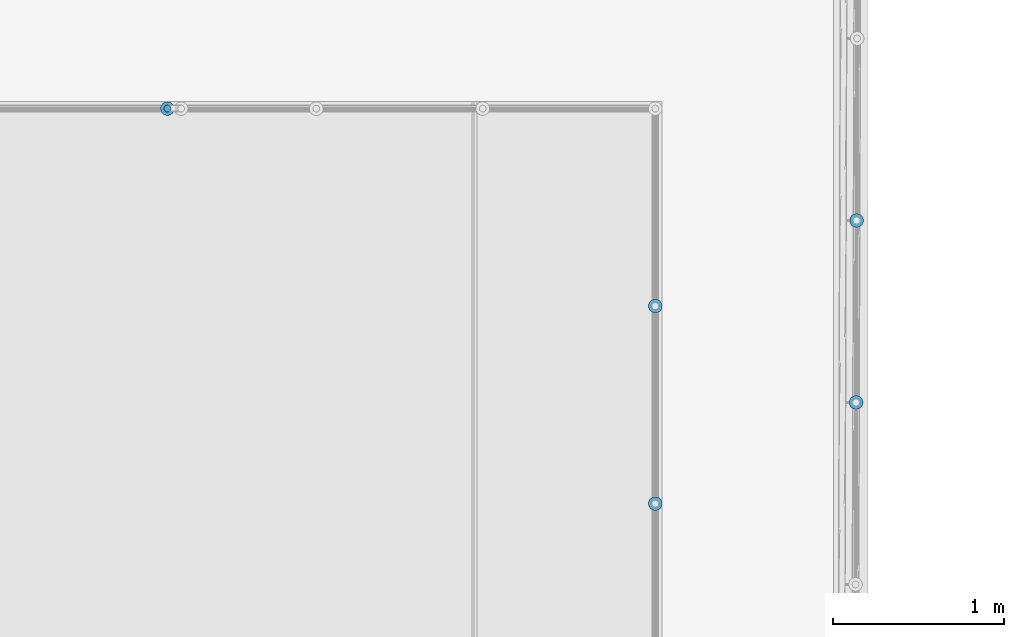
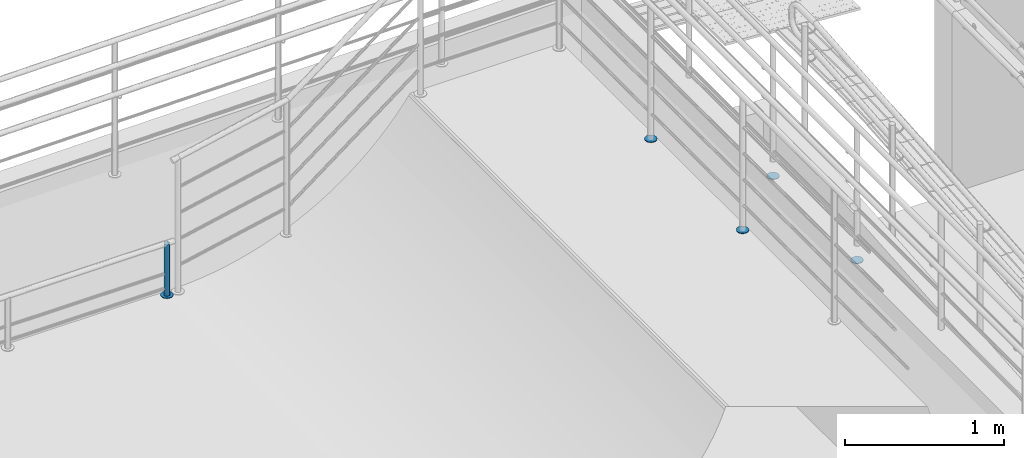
# One storey, part 116 of 237: 6 building element parts, 3 elements without a shape of their own.
"""IFC2X3 building model written with IfcOpenShell, lengths in millimetres."""

from ifc_helpers import new_model, entity, si_unit, converted_unit, derived_unit, money_unit, direction, frame, origin_with_axes, place, context, subcontext, project, spatial, faceted_brep, material, type_object, element, aggregate, save


model = new_model("IFC2X3")

# Units and contexts
model_context = context("Model", 3, precision=0.01, world=origin_with_axes(), true_north=direction((0.0, 1.0)))
body_context = subcontext(model_context, "Body", "Model", "MODEL_VIEW")
ifc_project = project(units=[si_unit("LENGTHUNIT", "METRE", prefix="MILLI"), si_unit("AREAUNIT", "SQUARE_METRE"), si_unit("VOLUMEUNIT", "CUBIC_METRE"), converted_unit("PLANEANGLEUNIT", "DEGREE", entity("IfcPlaneAngleMeasure", 0.0174532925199), si_unit("PLANEANGLEUNIT", "RADIAN"), dimensions=[0, 0, 0, 0, 0, 0, 0]), money_unit("USD"), converted_unit("TIMEUNIT", "Year", entity("IfcTimeMeasure", 31556926.0), si_unit("TIMEUNIT", "SECOND"), dimensions=[0, 0, 1, 0, 0, 0, 0]), si_unit("MASSUNIT", "GRAM", prefix="KILO"), si_unit("THERMODYNAMICTEMPERATUREUNIT", "DEGREE_CELSIUS"), si_unit("LUMINOUSINTENSITYUNIT", "LUMEN"), si_unit("ENERGYUNIT", "JOULE", prefix="MEGA"), derived_unit("THERMALCONDUCTANCEUNIT", [(si_unit("POWERUNIT", "WATT"), 1), (si_unit("LENGTHUNIT", "METRE"), -1), (si_unit("THERMODYNAMICTEMPERATUREUNIT", "KELVIN"), -1)]), derived_unit("SPECIFICHEATCAPACITYUNIT", [(si_unit("ENERGYUNIT", "JOULE"), 1), (si_unit("MASSUNIT", "GRAM", prefix="KILO"), -1), (si_unit("THERMODYNAMICTEMPERATUREUNIT", "KELVIN"), -1)]), derived_unit("MASSDENSITYUNIT", [(si_unit("MASSUNIT", "GRAM", prefix="KILO"), 1), (si_unit("VOLUMEUNIT", "CUBIC_METRE"), -1)])], contexts=[model_context])

# Site, building, storey
site_placement = place(None, origin_with_axes())
site = spatial("IfcSite", under=ifc_project, at=site_placement, Name="Local", CompositionType="ELEMENT")
building_placement = place(site_placement, origin_with_axes())
building = spatial("IfcBuilding", under=site, at=building_placement, Name="Construção", CompositionType="ELEMENT")
storey_placement = place(building_placement, origin_with_axes())
storey = spatial("IfcBuildingStorey", under=building, at=storey_placement, Name="Pavimento Térreo", CompositionType="ELEMENT", Elevation=0.0)

# Railing, building element parts
railing_type = type_object("IfcRailingType", Name="Tipo de Guarda-Corpo", PredefinedType="NOTDEFINED")
railing_1_placement = place(storey_placement, frame((70326.6870103, 28675.2458388, -1357.10819655), z_axis=(0.0, 0.0, 1.0), x_axis=(1.0, 0.0, 0.0)))
railing_1 = element("IfcRailing", 1, at=railing_1_placement, inside=storey, type_object=railing_type, Name="Guarda-Corpo - 004", PredefinedType="NOTDEFINED")
ifc_material_1 = material(Name="Alumínio")
building_element_part_1_placement = place(railing_1_placement, origin_with_axes())
building_element_part_1 = element("IfcBuildingElementPart", 2, at=building_element_part_1_placement, material=ifc_material_1, Name="Alumínio", context=body_context, shape_type="Brep", body=[
    faceted_brep([(-4731.3077517, 3502.74446679, 0.0), (-4738.25546721, 3502.15757709, 0.0), (-4738.25546721, 3502.15757709, 5.0), (-4731.3077517, 3502.74446679, 5.0), (-4724.36367527, 3502.11598217, 0.0), (-4717.63423017, 3500.29121943, 0.0), (-4711.32388719, 3497.32562306, 0.0), (-4705.62438291, 3493.3093012, 0.0), (-4700.70889387, 3488.36428776, 0.0), (-4696.72677473, 3482.64083448, 0.0), (-4693.79902016, 3476.31284558, 0.0), (-4692.0145885, 3469.5725938, 0.0), (-4691.42769881, 3462.62487829, 0.0), (-4692.05618342, 3455.68080186, 0.0), (-4693.88094616, 3448.95135676, 0.0), (-4696.84654254, 3442.64101378, 0.0), (-4700.86286439, 3436.9415095, 0.0), (-4705.80787783, 3432.02602046, 0.0), (-4711.53133112, 3428.04390132, 0.0), (-4717.85932002, 3425.11614675, 0.0), (-4724.5995718, 3423.33171509, 0.0), (-4731.54728731, 3422.7448254, 0.0), (-4738.49136374, 3423.37331001, 0.0), (-4745.22080883, 3425.19807275, 0.0), (-4751.53115181, 3428.16366913, 0.0), (-4757.2306561, 3432.17999098, 0.0), (-4762.14614513, 3437.12500442, 0.0), (-4766.12826427, 3442.84845771, 0.0), (-4769.05601884, 3449.17644661, 0.0), (-4770.8404505, 3455.91669839, 0.0), (-4771.4273402, 3462.8644139, 0.0), (-4770.79885558, 3469.80849033, 0.0), (-4768.97409284, 3476.53793542, 0.0), (-4766.00849647, 3482.8482784, 0.0), (-4761.99217461, 3488.54778269, 0.0), (-4757.04716117, 3493.46327172, 0.0), (-4751.32370789, 3497.44539086, 0.0), (-4744.99571899, 3500.37314543, 0.0), (-4744.99571899, 3500.37314543, 5.0), (-4751.32370789, 3497.44539086, 5.0), (-4757.04716117, 3493.46327172, 5.0), (-4761.99217461, 3488.54778269, 5.0), (-4766.00849647, 3482.8482784, 5.0), (-4768.97409284, 3476.53793542, 5.0), (-4770.79885558, 3469.80849033, 5.0), (-4771.4273402, 3462.8644139, 5.0), (-4770.8404505, 3455.91669839, 5.0), (-4769.05601884, 3449.17644661, 5.0), (-4766.12826427, 3442.84845771, 5.0), (-4762.14614513, 3437.12500442, 5.0), (-4757.2306561, 3432.17999098, 5.0), (-4751.53115181, 3428.16366913, 5.0), (-4745.22080883, 3425.19807275, 5.0), (-4738.49136374, 3423.37331001, 5.0), (-4731.54728731, 3422.7448254, 5.0), (-4724.5995718, 3423.33171509, 5.0), (-4717.85932002, 3425.11614675, 5.0), (-4711.53133112, 3428.04390132, 5.0), (-4705.80787783, 3432.02602046, 5.0), (-4700.86286439, 3436.9415095, 5.0), (-4696.84654254, 3442.64101378, 5.0), (-4693.88094616, 3448.95135676, 5.0), (-4692.05618342, 3455.68080186, 5.0), (-4691.42769881, 3462.62487829, 5.0), (-4692.0145885, 3469.5725938, 5.0), (-4693.79902016, 3476.31284558, 5.0), (-4696.72677473, 3482.64083448, 5.0), (-4700.70889387, 3488.36428776, 5.0), (-4705.62438291, 3493.3093012, 5.0), (-4711.32388719, 3497.32562306, 5.0), (-4717.63423017, 3500.29121943, 5.0), (-4724.36367527, 3502.11598217, 5.0)], [[[0, 1, 2, 3]], [[0, 4, 5, 6, 7, 8, 9, 10, 11, 12, 13, 14, 15, 16, 17, 18, 19, 20, 21, 22, 23, 24, 25, 26, 27, 28, 29, 30, 31, 32, 33, 34, 35, 36, 37, 1]], [[1, 37, 38, 2]], [[3, 2, 38, 39, 40, 41, 42, 43, 44, 45, 46, 47, 48, 49, 50, 51, 52, 53, 54, 55, 56, 57, 58, 59, 60, 61, 62, 63, 64, 65, 66, 67, 68, 69, 70, 71]], [[4, 0, 3, 71]], [[5, 4, 71, 70]], [[6, 5, 70, 69]], [[7, 6, 69, 68]], [[8, 7, 68, 67]], [[9, 8, 67, 66]], [[10, 9, 66, 65]], [[11, 10, 65, 64]], [[12, 11, 64, 63]], [[13, 12, 63, 62]], [[14, 13, 62, 61]], [[15, 14, 61, 60]], [[16, 15, 60, 59]], [[17, 16, 59, 58]], [[18, 17, 58, 57]], [[19, 18, 57, 56]], [[20, 19, 56, 55]], [[21, 20, 55, 54]], [[22, 21, 54, 53]], [[23, 22, 53, 52]], [[24, 23, 52, 51]], [[25, 24, 51, 50]], [[26, 25, 50, 49]], [[27, 26, 49, 48]], [[28, 27, 48, 47]], [[29, 28, 47, 46]], [[30, 29, 46, 45]], [[31, 30, 45, 44]], [[32, 31, 44, 43]], [[33, 32, 43, 42]], [[34, 33, 42, 41]], [[35, 34, 41, 40]], [[36, 35, 40, 39]], [[37, 36, 39, 38]]]),
])
building_element_part_2_placement = place(railing_1_placement, origin_with_axes())
building_element_part_2 = element("IfcBuildingElementPart", 3, at=building_element_part_2_placement, material=ifc_material_1, Name="Alumínio", context=body_context, shape_type="Brep", body=[
    faceted_brep([(-4728.12465034, 4565.83051667, 0.0), (-4735.07236585, 4565.24362698, 0.0), (-4735.07236585, 4565.24362698, 5.0), (-4728.12465034, 4565.83051667, 5.0), (-4721.18057391, 4565.20203206, 0.0), (-4714.45112881, 4563.37726932, 0.0), (-4708.14078583, 4560.41167295, 0.0), (-4702.44128155, 4556.39535109, 0.0), (-4697.52579251, 4551.45033765, 0.0), (-4693.54367337, 4545.72688436, 0.0), (-4690.6159188, 4539.39889546, 0.0), (-4688.83148714, 4532.65864369, 0.0), (-4688.24459745, 4525.71092817, 0.0), (-4688.87308206, 4518.76685174, 0.0), (-4690.6978448, 4512.03740665, 0.0), (-4693.66344118, 4505.72706367, 0.0), (-4697.67976303, 4500.02755938, 0.0), (-4702.62477647, 4495.11207035, 0.0), (-4708.34822976, 4491.12995121, 0.0), (-4714.67621866, 4488.20219664, 0.0), (-4721.41647044, 4486.41776498, 0.0), (-4728.36418595, 4485.83087528, 0.0), (-4735.30826238, 4486.4593599, 0.0), (-4742.03770747, 4488.28412264, 0.0), (-4748.34805045, 4491.24971901, 0.0), (-4754.04755474, 4495.26604087, 0.0), (-4758.96304377, 4500.21105431, 0.0), (-4762.94516291, 4505.93450759, 0.0), (-4765.87291749, 4512.2624965, 0.0), (-4767.65734914, 4519.00274827, 0.0), (-4768.24423884, 4525.95046379, 0.0), (-4767.61575422, 4532.89454021, 0.0), (-4765.79099148, 4539.62398531, 0.0), (-4762.82539511, 4545.93432829, 0.0), (-4758.80907325, 4551.63383257, 0.0), (-4753.86405981, 4556.54932161, 0.0), (-4748.14060653, 4560.53144075, 0.0), (-4741.81261763, 4563.45919532, 0.0), (-4741.81261763, 4563.45919532, 5.0), (-4748.14060653, 4560.53144075, 5.0), (-4753.86405981, 4556.54932161, 5.0), (-4758.80907325, 4551.63383257, 5.0), (-4762.82539511, 4545.93432829, 5.0), (-4765.79099148, 4539.62398531, 5.0), (-4767.61575422, 4532.89454021, 5.0), (-4768.24423884, 4525.95046379, 5.0), (-4767.65734914, 4519.00274827, 5.0), (-4765.87291749, 4512.2624965, 5.0), (-4762.94516291, 4505.93450759, 5.0), (-4758.96304377, 4500.21105431, 5.0), (-4754.04755474, 4495.26604087, 5.0), (-4748.34805045, 4491.24971901, 5.0), (-4742.03770747, 4488.28412264, 5.0), (-4735.30826238, 4486.4593599, 5.0), (-4728.36418595, 4485.83087528, 5.0), (-4721.41647044, 4486.41776498, 5.0), (-4714.67621866, 4488.20219664, 5.0), (-4708.34822976, 4491.12995121, 5.0), (-4702.62477647, 4495.11207035, 5.0), (-4697.67976303, 4500.02755938, 5.0), (-4693.66344118, 4505.72706367, 5.0), (-4690.6978448, 4512.03740665, 5.0), (-4688.87308206, 4518.76685174, 5.0), (-4688.24459745, 4525.71092817, 5.0), (-4688.83148714, 4532.65864369, 5.0), (-4690.6159188, 4539.39889546, 5.0), (-4693.54367337, 4545.72688436, 5.0), (-4697.52579251, 4551.45033765, 5.0), (-4702.44128155, 4556.39535109, 5.0), (-4708.14078583, 4560.41167295, 5.0), (-4714.45112881, 4563.37726932, 5.0), (-4721.18057391, 4565.20203206, 5.0)], [[[0, 1, 2, 3]], [[0, 4, 5, 6, 7, 8, 9, 10, 11, 12, 13, 14, 15, 16, 17, 18, 19, 20, 21, 22, 23, 24, 25, 26, 27, 28, 29, 30, 31, 32, 33, 34, 35, 36, 37, 1]], [[1, 37, 38, 2]], [[3, 2, 38, 39, 40, 41, 42, 43, 44, 45, 46, 47, 48, 49, 50, 51, 52, 53, 54, 55, 56, 57, 58, 59, 60, 61, 62, 63, 64, 65, 66, 67, 68, 69, 70, 71]], [[4, 0, 3, 71]], [[5, 4, 71, 70]], [[6, 5, 70, 69]], [[7, 6, 69, 68]], [[8, 7, 68, 67]], [[9, 8, 67, 66]], [[10, 9, 66, 65]], [[11, 10, 65, 64]], [[12, 11, 64, 63]], [[13, 12, 63, 62]], [[14, 13, 62, 61]], [[15, 14, 61, 60]], [[16, 15, 60, 59]], [[17, 16, 59, 58]], [[18, 17, 58, 57]], [[19, 18, 57, 56]], [[20, 19, 56, 55]], [[21, 20, 55, 54]], [[22, 21, 54, 53]], [[23, 22, 53, 52]], [[24, 23, 52, 51]], [[25, 24, 51, 50]], [[26, 25, 50, 49]], [[27, 26, 49, 48]], [[28, 27, 48, 47]], [[29, 28, 47, 46]], [[30, 29, 46, 45]], [[31, 30, 45, 44]], [[32, 31, 44, 43]], [[33, 32, 43, 42]], [[34, 33, 42, 41]], [[35, 34, 41, 40]], [[36, 35, 40, 39]], [[37, 36, 39, 38]]]),
])
aggregate(railing_1, [building_element_part_1, building_element_part_2])

railing_2_placement = place(storey_placement, frame((61612.4440926, 28006.4497128, -1265.99547451), z_axis=(0.0, 0.0, 1.0), x_axis=(-1.0, 0.0, 0.0)))
railing_2 = element("IfcRailing", 4, at=railing_2_placement, inside=storey, type_object=railing_type, Name="Guarda-Corpo - 001", PredefinedType="NOTDEFINED")
building_element_part_3_placement = place(railing_2_placement, origin_with_axes())
building_element_part_3 = element("IfcBuildingElementPart", 5, at=building_element_part_3_placement, material=ifc_material_1, Name="Alumínio", context=body_context, shape_type="Brep", body=[
    faceted_brep([(-2810.00007596, -3580.48225631, 908.887277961), (-2803.05414887, -3579.8745662, 908.887277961), (-2803.05414887, -3579.8745662, 913.887277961), (-2810.00007596, -3580.48225631, 913.887277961), (-2816.94600309, -3579.87456666, 908.887277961), (-2823.68088177, -3578.06996159, 908.887277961), (-2830.00007614, -3575.12327312, 908.887277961), (-2835.71158065, -3571.12403488, 908.887277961), (-2840.64185415, -3566.19376171, 908.887277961), (-2844.64109277, -3560.48225745, 908.887277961), (-2847.58778166, -3554.16306328, 908.887277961), (-2849.39238717, -3547.42818471, 908.887277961), (-2850.00007728, -3540.48225763, 908.887277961), (-2849.39238762, -3533.5363305, 908.887277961), (-2847.58778256, -3526.80145182, 908.887277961), (-2844.64109409, -3520.48225745, 908.887277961), (-2840.64185585, -3514.77075293, 908.887277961), (-2835.71158267, -3509.84047943, 908.887277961), (-2830.00007842, -3505.84124082, 908.887277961), (-2823.68088425, -3502.89455193, 908.887277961), (-2816.94600568, -3501.08994642, 908.887277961), (-2810.00007859, -3500.48225631, 908.887277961), (-2803.05415147, -3501.08994596, 908.887277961), (-2796.31927278, -3502.89455103, 908.887277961), (-2790.00007842, -3505.8412395, 908.887277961), (-2784.2885739, -3509.84047774, 908.887277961), (-2779.3583004, -3514.77075092, 908.887277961), (-2775.35906178, -3520.48225517, 908.887277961), (-2772.41237289, -3526.80144934, 908.887277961), (-2770.60776738, -3533.53632791, 908.887277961), (-2770.00007728, -3540.48225499, 908.887277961), (-2770.60776693, -3547.42818212, 908.887277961), (-2772.41237199, -3554.16306081, 908.887277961), (-2775.35906047, -3560.48225517, 908.887277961), (-2779.3582987, -3566.19375969, 908.887277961), (-2784.28857188, -3571.12403319, 908.887277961), (-2790.00007614, -3575.1232718, 908.887277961), (-2796.31927031, -3578.06996069, 908.887277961), (-2796.31927031, -3578.06996069, 913.887277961), (-2790.00007614, -3575.1232718, 913.887277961), (-2784.28857188, -3571.12403319, 913.887277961), (-2779.3582987, -3566.19375969, 913.887277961), (-2775.35906047, -3560.48225517, 913.887277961), (-2772.41237199, -3554.16306081, 913.887277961), (-2770.60776693, -3547.42818212, 913.887277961), (-2770.00007728, -3540.48225499, 913.887277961), (-2770.60776738, -3533.53632791, 913.887277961), (-2772.41237289, -3526.80144934, 913.887277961), (-2775.35906178, -3520.48225517, 913.887277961), (-2779.3583004, -3514.77075092, 913.887277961), (-2784.2885739, -3509.84047774, 913.887277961), (-2790.00007842, -3505.8412395, 913.887277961), (-2796.31927278, -3502.89455103, 913.887277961), (-2803.05415147, -3501.08994596, 913.887277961), (-2810.00007859, -3500.48225631, 913.887277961), (-2816.94600568, -3501.08994642, 913.887277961), (-2823.68088425, -3502.89455193, 913.887277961), (-2830.00007842, -3505.84124082, 913.887277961), (-2835.71158267, -3509.84047943, 913.887277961), (-2840.64185585, -3514.77075293, 913.887277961), (-2844.64109409, -3520.48225745, 913.887277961), (-2847.58778256, -3526.80145182, 913.887277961), (-2849.39238762, -3533.5363305, 913.887277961), (-2850.00007728, -3540.48225763, 913.887277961), (-2849.39238717, -3547.42818471, 913.887277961), (-2847.58778166, -3554.16306328, 913.887277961), (-2844.64109277, -3560.48225745, 913.887277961), (-2840.64185415, -3566.19376171, 913.887277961), (-2835.71158065, -3571.12403488, 913.887277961), (-2830.00007614, -3575.12327312, 913.887277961), (-2823.68088177, -3578.06996159, 913.887277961), (-2816.94600309, -3579.87456666, 913.887277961)], [[[0, 1, 2, 3]], [[0, 4, 5, 6, 7, 8, 9, 10, 11, 12, 13, 14, 15, 16, 17, 18, 19, 20, 21, 22, 23, 24, 25, 26, 27, 28, 29, 30, 31, 32, 33, 34, 35, 36, 37, 1]], [[1, 37, 38, 2]], [[3, 2, 38, 39, 40, 41, 42, 43, 44, 45, 46, 47, 48, 49, 50, 51, 52, 53, 54, 55, 56, 57, 58, 59, 60, 61, 62, 63, 64, 65, 66, 67, 68, 69, 70, 71]], [[4, 0, 3, 71]], [[5, 4, 71, 70]], [[6, 5, 70, 69]], [[7, 6, 69, 68]], [[8, 7, 68, 67]], [[9, 8, 67, 66]], [[10, 9, 66, 65]], [[11, 10, 65, 64]], [[12, 11, 64, 63]], [[13, 12, 63, 62]], [[14, 13, 62, 61]], [[15, 14, 61, 60]], [[16, 15, 60, 59]], [[17, 16, 59, 58]], [[18, 17, 58, 57]], [[19, 18, 57, 56]], [[20, 19, 56, 55]], [[21, 20, 55, 54]], [[22, 21, 54, 53]], [[23, 22, 53, 52]], [[24, 23, 52, 51]], [[25, 24, 51, 50]], [[26, 25, 50, 49]], [[27, 26, 49, 48]], [[28, 27, 48, 47]], [[29, 28, 47, 46]], [[30, 29, 46, 45]], [[31, 30, 45, 44]], [[32, 31, 44, 43]], [[33, 32, 43, 42]], [[34, 33, 42, 41]], [[35, 34, 41, 40]], [[36, 35, 40, 39]], [[37, 36, 39, 38]]]),
])
building_element_part_4_placement = place(railing_2_placement, origin_with_axes())
building_element_part_4 = element("IfcBuildingElementPart", 6, at=building_element_part_4_placement, material=ifc_material_1, Name="Alumínio", context=body_context, shape_type="Brep", body=[
    faceted_brep([(-2810.00003798, -4734.48082804, 908.887277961), (-2803.05411089, -4733.87313793, 908.887277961), (-2803.05411089, -4733.87313793, 913.887277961), (-2810.00003798, -4734.48082804, 913.887277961), (-2816.94596511, -4733.87313839, 908.887277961), (-2823.68084379, -4732.06853332, 908.887277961), (-2830.00003816, -4729.12184485, 908.887277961), (-2835.71154268, -4725.12260661, 908.887277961), (-2840.64181617, -4720.19233344, 908.887277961), (-2844.64105479, -4714.48082918, 908.887277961), (-2847.58774368, -4708.16163501, 908.887277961), (-2849.39234919, -4701.42675644, 908.887277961), (-2850.0000393, -4694.48082936, 908.887277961), (-2849.39234965, -4687.53490223, 908.887277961), (-2847.58774458, -4680.80002354, 908.887277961), (-2844.64105611, -4674.48082918, 908.887277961), (-2840.64181787, -4668.76932466, 908.887277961), (-2835.71154469, -4663.83905116, 908.887277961), (-2830.00004044, -4659.83981255, 908.887277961), (-2823.68084627, -4656.89312366, 908.887277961), (-2816.9459677, -4655.08851815, 908.887277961), (-2810.00004061, -4654.48082804, 908.887277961), (-2803.05411349, -4655.08851769, 908.887277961), (-2796.3192348, -4656.89312276, 908.887277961), (-2790.00004044, -4659.83981123, 908.887277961), (-2784.28853592, -4663.83904947, 908.887277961), (-2779.35826242, -4668.76932265, 908.887277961), (-2775.3590238, -4674.4808269, 908.887277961), (-2772.41233491, -4680.80002107, 908.887277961), (-2770.6077294, -4687.53489964, 908.887277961), (-2770.0000393, -4694.48082672, 908.887277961), (-2770.60772895, -4701.42675385, 908.887277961), (-2772.41233401, -4708.16163254, 908.887277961), (-2775.35902249, -4714.4808269, 908.887277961), (-2779.35826073, -4720.19233142, 908.887277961), (-2784.2885339, -4725.12260492, 908.887277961), (-2790.00003816, -4729.12184353, 908.887277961), (-2796.31923233, -4732.06853242, 908.887277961), (-2796.31923233, -4732.06853242, 913.887277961), (-2790.00003816, -4729.12184353, 913.887277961), (-2784.2885339, -4725.12260492, 913.887277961), (-2779.35826073, -4720.19233142, 913.887277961), (-2775.35902249, -4714.4808269, 913.887277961), (-2772.41233401, -4708.16163254, 913.887277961), (-2770.60772895, -4701.42675385, 913.887277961), (-2770.0000393, -4694.48082672, 913.887277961), (-2770.6077294, -4687.53489964, 913.887277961), (-2772.41233491, -4680.80002107, 913.887277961), (-2775.3590238, -4674.4808269, 913.887277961), (-2779.35826242, -4668.76932265, 913.887277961), (-2784.28853592, -4663.83904947, 913.887277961), (-2790.00004044, -4659.83981123, 913.887277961), (-2796.3192348, -4656.89312276, 913.887277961), (-2803.05411349, -4655.08851769, 913.887277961), (-2810.00004061, -4654.48082804, 913.887277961), (-2816.9459677, -4655.08851815, 913.887277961), (-2823.68084627, -4656.89312366, 913.887277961), (-2830.00004044, -4659.83981255, 913.887277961), (-2835.71154469, -4663.83905116, 913.887277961), (-2840.64181787, -4668.76932466, 913.887277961), (-2844.64105611, -4674.48082918, 913.887277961), (-2847.58774458, -4680.80002354, 913.887277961), (-2849.39234965, -4687.53490223, 913.887277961), (-2850.0000393, -4694.48082936, 913.887277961), (-2849.39234919, -4701.42675644, 913.887277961), (-2847.58774368, -4708.16163501, 913.887277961), (-2844.64105479, -4714.48082918, 913.887277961), (-2840.64181617, -4720.19233344, 913.887277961), (-2835.71154268, -4725.12260661, 913.887277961), (-2830.00003816, -4729.12184485, 913.887277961), (-2823.68084379, -4732.06853332, 913.887277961), (-2816.94596511, -4733.87313839, 913.887277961)], [[[0, 1, 2, 3]], [[0, 4, 5, 6, 7, 8, 9, 10, 11, 12, 13, 14, 15, 16, 17, 18, 19, 20, 21, 22, 23, 24, 25, 26, 27, 28, 29, 30, 31, 32, 33, 34, 35, 36, 37, 1]], [[1, 37, 38, 2]], [[3, 2, 38, 39, 40, 41, 42, 43, 44, 45, 46, 47, 48, 49, 50, 51, 52, 53, 54, 55, 56, 57, 58, 59, 60, 61, 62, 63, 64, 65, 66, 67, 68, 69, 70, 71]], [[4, 0, 3, 71]], [[5, 4, 71, 70]], [[6, 5, 70, 69]], [[7, 6, 69, 68]], [[8, 7, 68, 67]], [[9, 8, 67, 66]], [[10, 9, 66, 65]], [[11, 10, 65, 64]], [[12, 11, 64, 63]], [[13, 12, 63, 62]], [[14, 13, 62, 61]], [[15, 14, 61, 60]], [[16, 15, 60, 59]], [[17, 16, 59, 58]], [[18, 17, 58, 57]], [[19, 18, 57, 56]], [[20, 19, 56, 55]], [[21, 20, 55, 54]], [[22, 21, 54, 53]], [[23, 22, 53, 52]], [[24, 23, 52, 51]], [[25, 24, 51, 50]], [[26, 25, 50, 49]], [[27, 26, 49, 48]], [[28, 27, 48, 47]], [[29, 28, 47, 46]], [[30, 29, 46, 45]], [[31, 30, 45, 44]], [[32, 31, 44, 43]], [[33, 32, 43, 42]], [[34, 33, 42, 41]], [[35, 34, 41, 40]], [[36, 35, 40, 39]], [[37, 36, 39, 38]]]),
])
aggregate(railing_2, [building_element_part_3, building_element_part_4])

railing_3_placement = place(storey_placement, frame((61612.4440926, 33894.7133519, -1887.10818411), z_axis=(0.0, 0.0, 1.0), x_axis=(-1.0, 0.0, 0.0)))
railing_3 = element("IfcRailing", 7, at=railing_3_placement, inside=storey, type_object=railing_type, Name="Guarda-Corpo - 002", PredefinedType="NOTDEFINED")
ifc_material_2 = material(Name="Aço - Inoxidável")
building_element_part_5_placement = place(railing_3_placement, origin_with_axes())
building_element_part_5 = element("IfcBuildingElementPart", 8, at=building_element_part_5_placement, material=ifc_material_2, Name="Aço - Inoxidável", context=body_context, shape_type="Brep", body=[
    faceted_brep([(36.5270364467, 20.3038449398, 635.0), (40.0, 20.0, 635.0), (40.0, 20.0, 1030.0), (36.5270364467, 20.3038449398, 1030.0), (43.4729635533, 20.3038449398, 635.0), (33.1595971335, 21.2061475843, 635.0), (30.0, 22.6794919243, 635.0), (27.1442478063, 24.6791111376, 635.0), (24.6791111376, 27.1442478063, 635.0), (22.6794919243, 30.0, 635.0), (21.2061475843, 33.1595971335, 635.0), (20.3038449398, 36.5270364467, 635.0), (20.0, 40.0, 635.0), (20.3038449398, 43.4729635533, 635.0), (21.2061475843, 46.8404028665, 635.0), (22.6794919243, 50.0, 635.0), (24.6791111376, 52.8557521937, 635.0), (27.1442478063, 55.3208888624, 635.0), (30.0, 57.3205080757, 635.0), (33.1595971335, 58.7938524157, 635.0), (36.5270364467, 59.6961550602, 635.0), (40.0, 60.0, 635.0), (43.4729635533, 59.6961550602, 635.0), (46.8404028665, 58.7938524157, 635.0), (50.0, 57.3205080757, 635.0), (52.8557521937, 55.3208888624, 635.0), (55.3208888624, 52.8557521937, 635.0), (57.3205080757, 50.0, 635.0), (58.7938524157, 46.8404028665, 635.0), (59.6961550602, 43.4729635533, 635.0), (60.0, 40.0, 635.0), (59.6961550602, 36.5270364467, 635.0), (58.7938524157, 33.1595971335, 635.0), (57.3205080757, 30.0, 635.0), (55.3208888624, 27.1442478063, 635.0), (52.8557521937, 24.6791111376, 635.0), (50.0, 22.6794919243, 635.0), (46.8404028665, 21.2061475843, 635.0), (43.4729635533, 20.3038449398, 1030.0), (20.3038449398, 43.4729635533, 1030.0), (20.0, 40.0, 1030.0), (20.3038449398, 36.5270364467, 1030.0), (21.2061475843, 33.1595971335, 1030.0), (22.6794919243, 30.0, 1030.0), (24.6791111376, 27.1442478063, 1030.0), (27.1442478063, 24.6791111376, 1030.0), (30.0, 22.6794919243, 1030.0), (33.1595971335, 21.2061475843, 1030.0), (46.8404028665, 21.2061475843, 1030.0), (50.0, 22.6794919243, 1030.0), (52.8557521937, 24.6791111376, 1030.0), (55.3208888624, 27.1442478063, 1030.0), (57.3205080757, 30.0, 1030.0), (58.7938524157, 33.1595971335, 1030.0), (59.6961550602, 36.5270364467, 1030.0), (60.0, 40.0, 1030.0), (59.6961550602, 43.4729635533, 1030.0), (58.7938524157, 46.8404028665, 1030.0), (57.3205080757, 50.0, 1030.0), (55.3208888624, 52.8557521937, 1030.0), (52.8557521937, 55.3208888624, 1030.0), (50.0, 57.3205080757, 1030.0), (46.8404028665, 58.7938524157, 1030.0), (43.4729635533, 59.6961550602, 1030.0), (40.0, 60.0, 1030.0), (36.5270364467, 59.6961550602, 1030.0), (33.1595971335, 58.7938524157, 1030.0), (30.0, 57.3205080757, 1030.0), (27.1442478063, 55.3208888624, 1030.0), (24.6791111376, 52.8557521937, 1030.0), (22.6794919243, 50.0, 1030.0), (21.2061475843, 46.8404028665, 1030.0)], [[[0, 1, 2, 3]], [[4, 1, 0, 5, 6, 7, 8, 9, 10, 11, 12, 13, 14, 15, 16, 17, 18, 19, 20, 21, 22, 23, 24, 25, 26, 27, 28, 29, 30, 31, 32, 33, 34, 35, 36, 37]], [[1, 4, 38, 2]], [[39, 40, 41, 42, 43, 44, 45, 46, 47, 3, 2, 38, 48, 49, 50, 51, 52, 53, 54, 55, 56, 57, 58, 59, 60, 61, 62, 63, 64, 65, 66, 67, 68, 69, 70, 71]], [[5, 0, 3, 47]], [[6, 5, 47, 46]], [[7, 6, 46, 45]], [[8, 7, 45, 44]], [[9, 8, 44, 43]], [[10, 9, 43, 42]], [[11, 10, 42, 41]], [[12, 11, 41, 40]], [[13, 12, 40, 39]], [[14, 13, 39, 71]], [[15, 14, 71, 70]], [[16, 15, 70, 69]], [[17, 16, 69, 68]], [[18, 17, 68, 67]], [[19, 18, 67, 66]], [[20, 19, 66, 65]], [[21, 20, 65, 64]], [[22, 21, 64, 63]], [[23, 22, 63, 62]], [[24, 23, 62, 61]], [[25, 24, 61, 60]], [[26, 25, 60, 59]], [[27, 26, 59, 58]], [[28, 27, 58, 57]], [[29, 28, 57, 56]], [[30, 29, 56, 55]], [[31, 30, 55, 54]], [[32, 31, 54, 53]], [[33, 32, 53, 52]], [[34, 33, 52, 51]], [[35, 34, 51, 50]], [[36, 35, 50, 49]], [[37, 36, 49, 48]], [[4, 37, 48, 38]]]),
])
building_element_part_6_placement = place(railing_3_placement, origin_with_axes())
building_element_part_6 = element("IfcBuildingElementPart", 9, at=building_element_part_6_placement, material=ifc_material_1, Name="Alumínio", context=body_context, shape_type="Brep", body=[
    faceted_brep([(80.0, 40.0, 630.0), (79.3923101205, 46.9459271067, 630.0), (79.3923101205, 46.9459271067, 635.0), (80.0, 40.0, 635.0), (79.3923101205, 33.0540728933, 630.0), (77.5877048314, 26.319194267, 630.0), (74.6410161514, 20.0, 630.0), (70.6417777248, 14.2884956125, 630.0), (65.7115043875, 9.35822227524, 630.0), (60.0, 5.35898384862, 630.0), (53.680805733, 2.41229516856, 630.0), (46.9459271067, 0.607689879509, 630.0), (40.0, 0.0, 630.0), (33.0540728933, 0.607689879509, 630.0), (26.319194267, 2.41229516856, 630.0), (20.0, 5.35898384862, 630.0), (14.2884956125, 9.35822227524, 630.0), (9.35822227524, 14.2884956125, 630.0), (5.35898384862, 20.0, 630.0), (2.41229516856, 26.319194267, 630.0), (0.607689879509, 33.0540728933, 630.0), (0.0, 40.0, 630.0), (0.607689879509, 46.9459271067, 630.0), (2.41229516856, 53.680805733, 630.0), (5.35898384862, 60.0, 630.0), (9.35822227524, 65.7115043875, 630.0), (14.2884956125, 70.6417777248, 630.0), (20.0, 74.6410161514, 630.0), (26.319194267, 77.5877048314, 630.0), (33.0540728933, 79.3923101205, 630.0), (40.0, 80.0, 630.0), (46.9459271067, 79.3923101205, 630.0), (53.680805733, 77.5877048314, 630.0), (60.0, 74.6410161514, 630.0), (65.7115043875, 70.6417777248, 630.0), (70.6417777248, 65.7115043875, 630.0), (74.6410161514, 60.0, 630.0), (77.5877048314, 53.680805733, 630.0), (77.5877048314, 53.680805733, 635.0), (74.6410161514, 60.0, 635.0), (70.6417777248, 65.7115043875, 635.0), (65.7115043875, 70.6417777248, 635.0), (60.0, 74.6410161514, 635.0), (53.680805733, 77.5877048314, 635.0), (46.9459271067, 79.3923101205, 635.0), (40.0, 80.0, 635.0), (33.0540728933, 79.3923101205, 635.0), (26.319194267, 77.5877048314, 635.0), (20.0, 74.6410161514, 635.0), (14.2884956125, 70.6417777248, 635.0), (9.35822227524, 65.7115043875, 635.0), (5.35898384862, 60.0, 635.0), (2.41229516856, 53.680805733, 635.0), (0.607689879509, 46.9459271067, 635.0), (0.0, 40.0, 635.0), (0.607689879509, 33.0540728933, 635.0), (2.41229516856, 26.319194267, 635.0), (5.35898384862, 20.0, 635.0), (9.35822227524, 14.2884956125, 635.0), (14.2884956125, 9.35822227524, 635.0), (20.0, 5.35898384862, 635.0), (26.319194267, 2.41229516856, 635.0), (33.0540728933, 0.607689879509, 635.0), (40.0, 0.0, 635.0), (46.9459271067, 0.607689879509, 635.0), (53.680805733, 2.41229516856, 635.0), (60.0, 5.35898384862, 635.0), (65.7115043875, 9.35822227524, 635.0), (70.6417777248, 14.2884956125, 635.0), (74.6410161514, 20.0, 635.0), (77.5877048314, 26.319194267, 635.0), (79.3923101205, 33.0540728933, 635.0)], [[[0, 1, 2, 3]], [[0, 4, 5, 6, 7, 8, 9, 10, 11, 12, 13, 14, 15, 16, 17, 18, 19, 20, 21, 22, 23, 24, 25, 26, 27, 28, 29, 30, 31, 32, 33, 34, 35, 36, 37, 1]], [[1, 37, 38, 2]], [[3, 2, 38, 39, 40, 41, 42, 43, 44, 45, 46, 47, 48, 49, 50, 51, 52, 53, 54, 55, 56, 57, 58, 59, 60, 61, 62, 63, 64, 65, 66, 67, 68, 69, 70, 71]], [[4, 0, 3, 71]], [[5, 4, 71, 70]], [[6, 5, 70, 69]], [[7, 6, 69, 68]], [[8, 7, 68, 67]], [[9, 8, 67, 66]], [[10, 9, 66, 65]], [[11, 10, 65, 64]], [[12, 11, 64, 63]], [[13, 12, 63, 62]], [[14, 13, 62, 61]], [[15, 14, 61, 60]], [[16, 15, 60, 59]], [[17, 16, 59, 58]], [[18, 17, 58, 57]], [[19, 18, 57, 56]], [[20, 19, 56, 55]], [[21, 20, 55, 54]], [[22, 21, 54, 53]], [[23, 22, 53, 52]], [[24, 23, 52, 51]], [[25, 24, 51, 50]], [[26, 25, 50, 49]], [[27, 26, 49, 48]], [[28, 27, 48, 47]], [[29, 28, 47, 46]], [[30, 29, 46, 45]], [[31, 30, 45, 44]], [[32, 31, 44, 43]], [[33, 32, 43, 42]], [[34, 33, 42, 41]], [[35, 34, 41, 40]], [[36, 35, 40, 39]], [[37, 36, 39, 38]]]),
])
aggregate(railing_3, [building_element_part_5, building_element_part_6])

save(model, "model.ifc")
